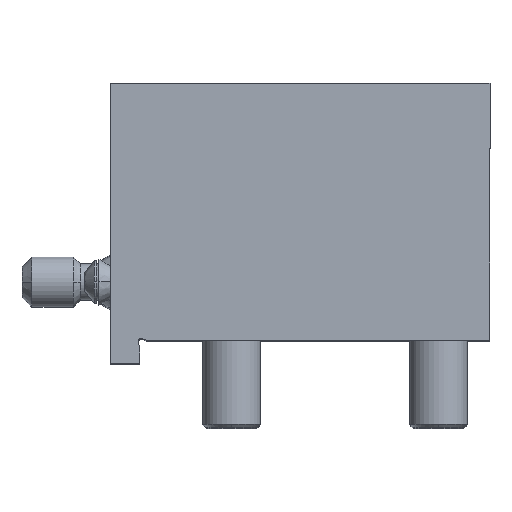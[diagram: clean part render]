
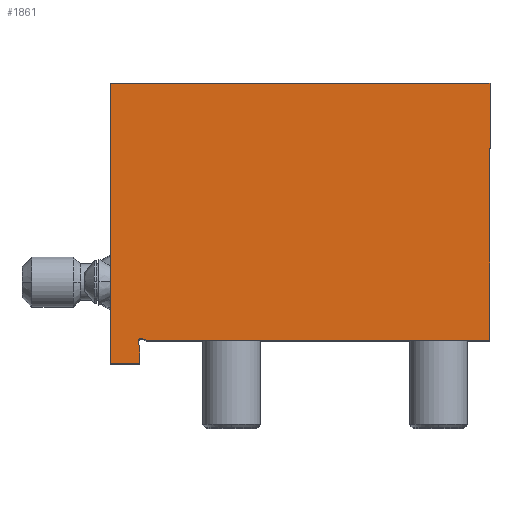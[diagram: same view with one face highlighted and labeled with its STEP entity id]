
A CAD part, top view. The second image highlights one B-rep face of the part: STEP entity #1861.
In plain terms, the highlighted planar face has unit normal (0, 0, 1).
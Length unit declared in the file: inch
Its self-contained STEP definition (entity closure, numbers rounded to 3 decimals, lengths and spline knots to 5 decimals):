
#201 = VECTOR ( 'NONE', #1638, 39.37008 ) ;
#202 = VECTOR ( 'NONE', #8217, 39.37008 ) ;
#366 = CARTESIAN_POINT ( 'NONE',  ( 0.015, -0.015, 4. ) ) ;
#498 = CIRCLE ( 'NONE', #4930, 0.03 ) ;
#578 = EDGE_LOOP ( 'NONE', ( #6298, #3122, #3176, #6100, #7312, #8171, #4415, #6695, #7005, #8127 ) ) ;
#741 = CARTESIAN_POINT ( 'NONE',  ( -0.25, 2.2, 4. ) ) ;
#753 = DIRECTION ( 'NONE',  ( 0., -1., 0. ) ) ;
#877 = EDGE_CURVE ( 'NONE', #4767, #7830, #4593, .T. ) ;
#1075 = DIRECTION ( 'NONE',  ( -1., 0., 0. ) ) ;
#1139 = EDGE_CURVE ( 'NONE', #7292, #7899, #4218, .T. ) ;
#1189 = AXIS2_PLACEMENT_3D ( 'NONE', #5421, #6118, #5473 ) ;
#1311 = CARTESIAN_POINT ( 'NONE',  ( 0.02526, 0.01319, 4. ) ) ;
#1483 = VECTOR ( 'NONE', #6179, 39.37008 ) ;
#1618 = LINE ( 'NONE', #8458, #4575 ) ;
#1638 = DIRECTION ( 'NONE',  ( 0., -1., 0. ) ) ;
#1689 = EDGE_CURVE ( 'NONE', #2291, #6514, #8388, .T. ) ;
#1861 = ADVANCED_FACE ( 'NONE', ( #5885 ), #8707, .F. ) ;
#2215 = CIRCLE ( 'NONE', #3682, 0.03 ) ;
#2291 = VERTEX_POINT ( 'NONE', #4142 ) ;
#2339 = EDGE_CURVE ( 'NONE', #7899, #9146, #8386, .T. ) ;
#2547 = CARTESIAN_POINT ( 'NONE',  ( 0.015, -0.015, 4. ) ) ;
#2666 = VECTOR ( 'NONE', #7594, 39.37008 ) ;
#2829 = DIRECTION ( 'NONE',  ( 1., 0., 0. ) ) ;
#2996 = CARTESIAN_POINT ( 'NONE',  ( 0., -0.04588, 4. ) ) ;
#3009 = EDGE_CURVE ( 'NONE', #5020, #4071, #498, .T. ) ;
#3122 = ORIENTED_EDGE ( 'NONE', *, *, #3009, .T. ) ;
#3176 = ORIENTED_EDGE ( 'NONE', *, *, #6745, .T. ) ;
#3181 = DIRECTION ( 'NONE',  ( 0., 0., -1. ) ) ;
#3531 = CARTESIAN_POINT ( 'NONE',  ( 0., 0., 4. ) ) ;
#3682 = AXIS2_PLACEMENT_3D ( 'NONE', #2547, #5366, #1075 ) ;
#4025 = LINE ( 'NONE', #5454, #202 ) ;
#4071 = VERTEX_POINT ( 'NONE', #7801 ) ;
#4126 = CARTESIAN_POINT ( 'NONE',  ( 0., -0.2, 4. ) ) ;
#4142 = CARTESIAN_POINT ( 'NONE',  ( 0.0615, 0., 4. ) ) ;
#4218 = LINE ( 'NONE', #3531, #5138 ) ;
#4415 = ORIENTED_EDGE ( 'NONE', *, *, #6907, .F. ) ;
#4575 = VECTOR ( 'NONE', #5038, 39.37008 ) ;
#4593 = LINE ( 'NONE', #7261, #201 ) ;
#4767 = VERTEX_POINT ( 'NONE', #5576 ) ;
#4784 = CARTESIAN_POINT ( 'NONE',  ( 0.0615, 0., 4. ) ) ;
#4930 = AXIS2_PLACEMENT_3D ( 'NONE', #366, #3181, #5997 ) ;
#5020 = VERTEX_POINT ( 'NONE', #7352 ) ;
#5038 = DIRECTION ( 'NONE',  ( 0., 1., 0. ) ) ;
#5138 = VECTOR ( 'NONE', #753, 39.37008 ) ;
#5366 = DIRECTION ( 'NONE',  ( 0., 0., -1. ) ) ;
#5421 = CARTESIAN_POINT ( 'NONE',  ( -0.25, 0., 4. ) ) ;
#5454 = CARTESIAN_POINT ( 'NONE',  ( -0.00957, -0.03221, 4. ) ) ;
#5473 = DIRECTION ( 'NONE',  ( -1., 0., 0. ) ) ;
#5499 = VERTEX_POINT ( 'NONE', #7204 ) ;
#5576 = CARTESIAN_POINT ( 'NONE',  ( 3., 2.2, 4. ) ) ;
#5613 = CARTESIAN_POINT ( 'NONE',  ( -0.25, -0.2, 4. ) ) ;
#5693 = EDGE_CURVE ( 'NONE', #5020, #7292, #4025, .T. ) ;
#5750 = VECTOR ( 'NONE', #2829, 39.37008 ) ;
#5885 = FACE_OUTER_BOUND ( 'NONE', #578, .T. ) ;
#5997 = DIRECTION ( 'NONE',  ( -1., 0., 0. ) ) ;
#6007 = CARTESIAN_POINT ( 'NONE',  ( -0.25, -0.2, 4. ) ) ;
#6100 = ORIENTED_EDGE ( 'NONE', *, *, #1689, .F. ) ;
#6118 = DIRECTION ( 'NONE',  ( 0., 0., -1. ) ) ;
#6179 = DIRECTION ( 'NONE',  ( -1., 0., 0. ) ) ;
#6196 = CARTESIAN_POINT ( 'NONE',  ( 3., 0., 4. ) ) ;
#6298 = ORIENTED_EDGE ( 'NONE', *, *, #5693, .F. ) ;
#6514 = VERTEX_POINT ( 'NONE', #1311 ) ;
#6695 = ORIENTED_EDGE ( 'NONE', *, *, #6972, .F. ) ;
#6745 = EDGE_CURVE ( 'NONE', #4071, #6514, #2215, .T. ) ;
#6907 = EDGE_CURVE ( 'NONE', #5499, #4767, #7152, .T. ) ;
#6972 = EDGE_CURVE ( 'NONE', #9146, #5499, #1618, .T. ) ;
#7005 = ORIENTED_EDGE ( 'NONE', *, *, #2339, .F. ) ;
#7152 = LINE ( 'NONE', #741, #5750 ) ;
#7176 = EDGE_CURVE ( 'NONE', #7830, #2291, #8952, .T. ) ;
#7204 = CARTESIAN_POINT ( 'NONE',  ( -0.25, 2.2, 4. ) ) ;
#7261 = CARTESIAN_POINT ( 'NONE',  ( 3., 0., 4. ) ) ;
#7292 = VERTEX_POINT ( 'NONE', #2996 ) ;
#7312 = ORIENTED_EDGE ( 'NONE', *, *, #7176, .F. ) ;
#7352 = CARTESIAN_POINT ( 'NONE',  ( -0.00957, -0.03221, 4. ) ) ;
#7558 = CARTESIAN_POINT ( 'NONE',  ( 3., 0., 4. ) ) ;
#7594 = DIRECTION ( 'NONE',  ( -0.94, 0.342, 0. ) ) ;
#7801 = CARTESIAN_POINT ( 'NONE',  ( -0.015, -0.015, 4. ) ) ;
#7830 = VERTEX_POINT ( 'NONE', #6196 ) ;
#7899 = VERTEX_POINT ( 'NONE', #4126 ) ;
#8127 = ORIENTED_EDGE ( 'NONE', *, *, #1139, .F. ) ;
#8171 = ORIENTED_EDGE ( 'NONE', *, *, #877, .F. ) ;
#8217 = DIRECTION ( 'NONE',  ( 0.574, -0.819, 0. ) ) ;
#8338 = DIRECTION ( 'NONE',  ( -1., 0., 0. ) ) ;
#8386 = LINE ( 'NONE', #5613, #8978 ) ;
#8388 = LINE ( 'NONE', #4784, #2666 ) ;
#8458 = CARTESIAN_POINT ( 'NONE',  ( -0.25, 0., 4. ) ) ;
#8707 = PLANE ( 'NONE',  #1189 ) ;
#8952 = LINE ( 'NONE', #7558, #1483 ) ;
#8978 = VECTOR ( 'NONE', #8338, 39.37008 ) ;
#9146 = VERTEX_POINT ( 'NONE', #6007 ) ;
